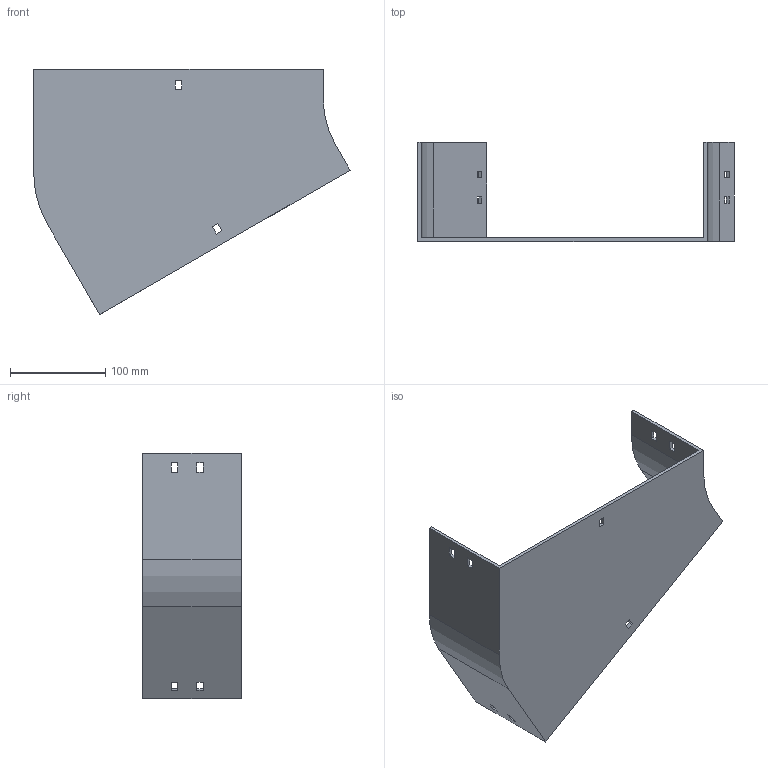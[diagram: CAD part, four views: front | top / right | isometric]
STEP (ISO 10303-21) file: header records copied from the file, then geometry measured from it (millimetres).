
FILE_DESCRIPTION (( 'STEP AP214' ), '1' );
FILE_NAME ('12F1D300.step', '2025-02-21T12:53:37', ( '' ), ( '' ), 'SwSTEP 2.0', 'SolidWorks 2023', '' );
FILE_SCHEMA (( 'AUTOMOTIVE_DESIGN' ));
Length unit declared in the file: millimetre
Products named in the file (1): 12F1D300
Bounding box: 332.4 x 104 x 257.98 mm (x, y, z)
Volume: 341509.7 mm3; surface area: 201209.1 mm2
Topology: 1 solids, 1 shells, 58 faces, 168 edges, 112 vertices
Faces by surface type: plane 54, cylinder 4
Entity records: 1943 total; most frequent: CARTESIAN_POINT 339, ORIENTED_EDGE 336, DIRECTION 294, EDGE_CURVE 168, VECTOR 160, LINE 160, VERTEX_POINT 112, EDGE_LOOP 78
